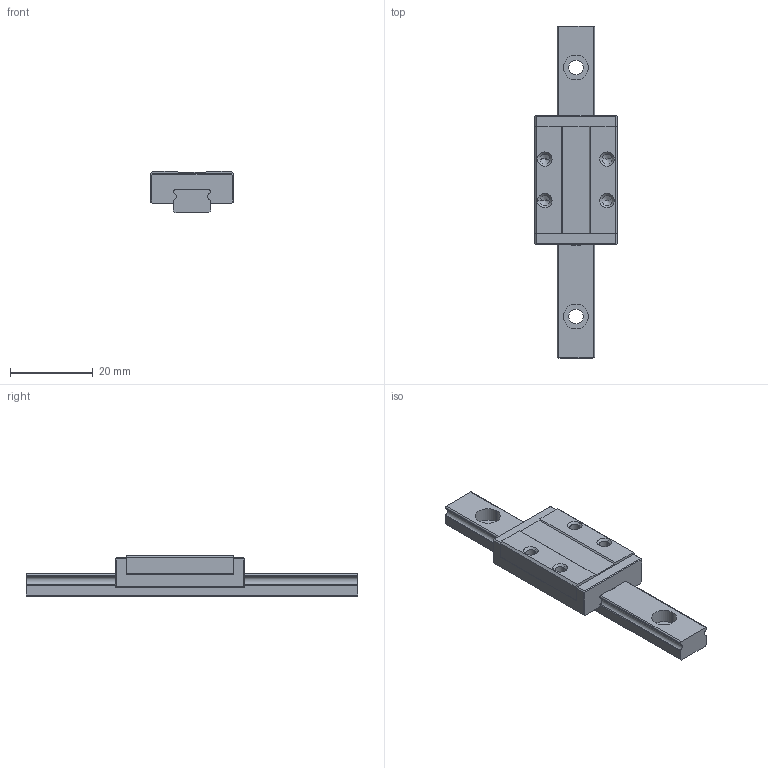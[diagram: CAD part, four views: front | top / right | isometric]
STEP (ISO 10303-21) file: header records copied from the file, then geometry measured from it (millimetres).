
FILE_DESCRIPTION( ( '' ), '1' );
FILE_NAME( 'V:\MSC\MODEL File\MAC catalog drawing\STEP\MSC9M.stp', ' ', ( '' ), ( '' ), 'ACIS Interop R16', 'Kubotek KeyCreator V6.3.0 (0248)', ' ' );
FILE_SCHEMA( ( 'CONFIG_CONTROL_DESIGN' ) );
Length unit declared in the file: millimetre
Products named in the file (2): 1; 2
Bounding box: 20 x 80 x 10 mm (x, y, z)
Volume: 7073.7 mm3; surface area: 5003.6 mm2
Topology: 2 solids, 2 shells, 122 faces, 318 edges, 200 vertices
Faces by surface type: plane 64, cylinder 42, cone 16
Entity records: 3785 total; most frequent: DIRECTION 659, CARTESIAN_POINT 643, ORIENTED_EDGE 620, EDGE_CURVE 310, AXIS2_PLACEMENT_3D 228, LINE 203, VECTOR 203, VERTEX_POINT 200
